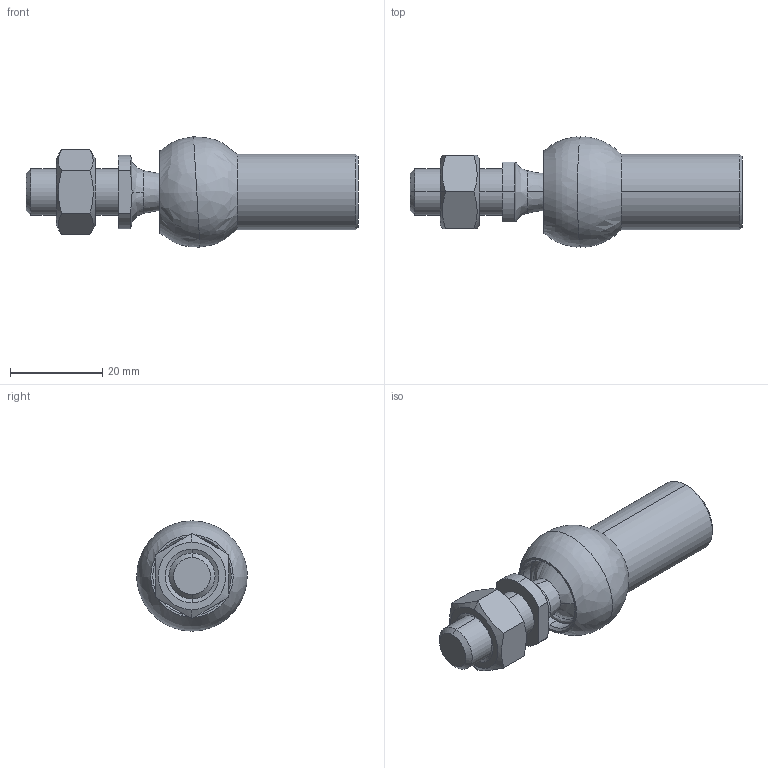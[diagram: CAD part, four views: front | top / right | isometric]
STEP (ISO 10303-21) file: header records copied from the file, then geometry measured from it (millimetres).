
FILE_DESCRIPTION (( 'STEP AP214' ), '1' );
FILE_NAME ('13.AG10T.STEP', '2017-10-28T12:15:58', ( '' ), ( '' ), 'SwSTEP 2.0', 'SolidWorks 2016', '' );
FILE_SCHEMA (( 'AUTOMOTIVE_DESIGN' ));
Length unit declared in the file: millimetre
Products named in the file (1): 13.AG10T
Bounding box: 72.07 x 24 x 23.96 mm (x, y, z)
Volume: 13266.8 mm3; surface area: 6826.8 mm2
Topology: 1 solids, 1 shells, 74 faces, 195 edges, 123 vertices
Faces by surface type: plane 22, cone 20, bspline 17, cylinder 15
Entity records: 3429 total; most frequent: CARTESIAN_POINT 1679, ORIENTED_EDGE 370, DIRECTION 349, EDGE_CURVE 185, AXIS2_PLACEMENT_3D 148, VERTEX_POINT 123, CIRCLE 90, EDGE_LOOP 84
